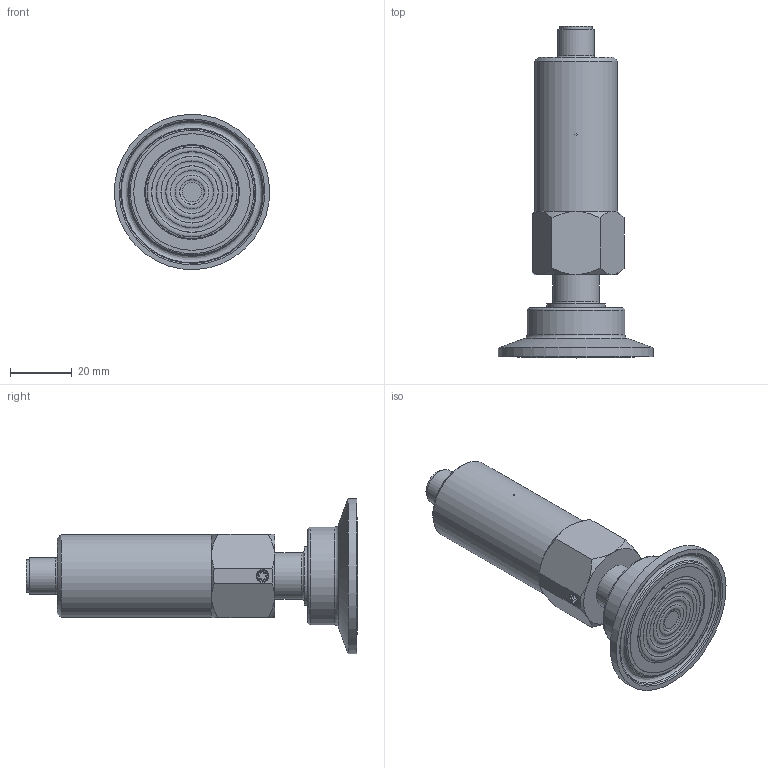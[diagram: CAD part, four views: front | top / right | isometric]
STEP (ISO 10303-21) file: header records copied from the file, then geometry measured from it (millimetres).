
FILE_DESCRIPTION(/* description */ (''),/* implementation_level */ '2;1');
FILE_NAME(/* name */ '40-000051.ipt.stp',/* time_stamp */ '2024-09-20T08:01:13-07:00',/* author */ ('phong'),/* organization */ (''),/* preprocessor_version */ 'ST-DEVELOPER v20',/* originating_system */ 'Autodesk Inventor 2024',/* authorisation */ '');
FILE_SCHEMA (('AUTOMOTIVE_DESIGN { 1 0 10303 214 3 1 1 }'));
Length unit declared in the file: inch
Products named in the file (1): 40-000051
Bounding box: 50.34 x 107.72 x 50.34 mm (x, y, z)
Volume: 38448.8 mm3; surface area: 25088.3 mm2
Topology: 1 solids, 4 shells, 222 faces, 495 edges, 308 vertices
Faces by surface type: cylinder 67, plane 67, cone 43, torus 39, bspline 4, sphere 2
Full cylindrical faces by diameter (mm): 0.66 x1, 0.965 x4, 1.092 x4, 1.511 x4, 2.381 x1, 2.388 x1, 3 x1, 3.5 x1, 3.961 x4, 4.134 x6, 8.026 x2, 8.382 x2, 8.966 x1, 9.347 x1, 9.487 x2, 10.389 x1, 11.887 x1, 15.088 x1, 19 x1, 19.05 x1, 20 x1, 21.907 x1, 22.314 x2, 23 x1, 23.1 x1, 23.917 x2, 25.908 x1, 26.861 x1, 31.75 x1, 37.846 x1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
Entity records: 8481 total; most frequent: CARTESIAN_POINT 3361, DIRECTION 1121, ORIENTED_EDGE 990, EDGE_CURVE 495, AXIS2_PLACEMENT_3D 491, VERTEX_POINT 308, CIRCLE 272, EDGE_LOOP 255
